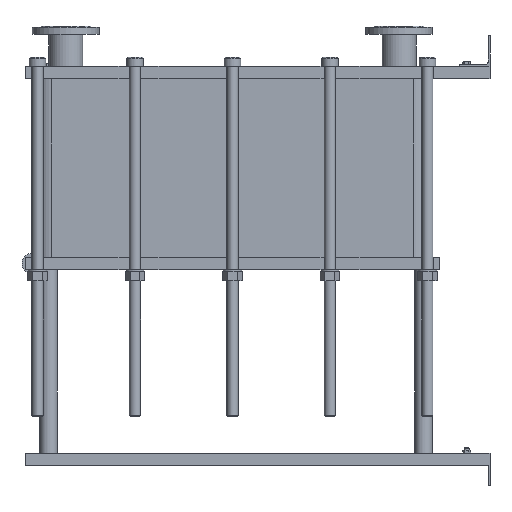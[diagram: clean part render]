
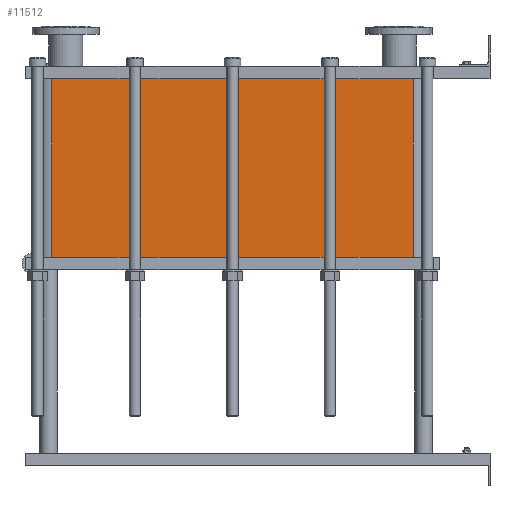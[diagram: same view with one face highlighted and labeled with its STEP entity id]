
A CAD part, left-side view. The second image highlights one B-rep face of the part: STEP entity #11512.
In plain terms, the highlighted planar face has unit normal (-1, 0, 0).
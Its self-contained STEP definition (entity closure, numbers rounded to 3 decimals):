
#1129=LINE('',#23232,#2102);
#1130=LINE('',#23236,#2103);
#1131=LINE('',#23238,#2104);
#1132=LINE('',#23239,#2105);
#2102=VECTOR('',#15887,10.);
#2103=VECTOR('',#15892,10.);
#2104=VECTOR('',#15893,10.);
#2105=VECTOR('',#15894,10.);
#3267=FACE_OUTER_BOUND('',#4093,.T.);
#4093=EDGE_LOOP('',(#10103,#10104,#10105,#10106));
#5642=VERTEX_POINT('',#23229);
#5643=VERTEX_POINT('',#23231);
#5644=VERTEX_POINT('',#23235);
#5645=VERTEX_POINT('',#23237);
#7159=EDGE_CURVE('',#5643,#5642,#1129,.T.);
#7161=EDGE_CURVE('',#5642,#5644,#1130,.T.);
#7162=EDGE_CURVE('',#5645,#5644,#1131,.T.);
#7163=EDGE_CURVE('',#5645,#5643,#1132,.T.);
#10103=ORIENTED_EDGE('',*,*,#7161,.T.);
#10104=ORIENTED_EDGE('',*,*,#7162,.F.);
#10105=ORIENTED_EDGE('',*,*,#7163,.T.);
#10106=ORIENTED_EDGE('',*,*,#7159,.T.);
#10857=PLANE('',#12751);
#11512=ADVANCED_FACE('',(#3267),#10857,.T.);
#12751=AXIS2_PLACEMENT_3D('',#23234,#15890,#15891);
#15887=DIRECTION('',(0.,0.,-1.));
#15890=DIRECTION('center_axis',(-1.,0.,0.));
#15891=DIRECTION('ref_axis',(0.,1.,0.));
#15892=DIRECTION('',(0.,-1.,0.));
#15893=DIRECTION('',(0.,0.,-1.));
#15894=DIRECTION('',(0.,1.,0.));
#23229=CARTESIAN_POINT('',(-200.,1414.,-576.15));
#23231=CARTESIAN_POINT('',(-200.,1414.,0.));
#23232=CARTESIAN_POINT('',(-200.,1414.,0.));
#23234=CARTESIAN_POINT('Origin',(-200.,248.,0.));
#23235=CARTESIAN_POINT('',(-200.,248.,-576.15));
#23236=CARTESIAN_POINT('',(-200.,539.5,-576.15));
#23237=CARTESIAN_POINT('',(-200.,248.,0.));
#23238=CARTESIAN_POINT('',(-200.,248.,0.));
#23239=CARTESIAN_POINT('',(-200.,248.,0.));
